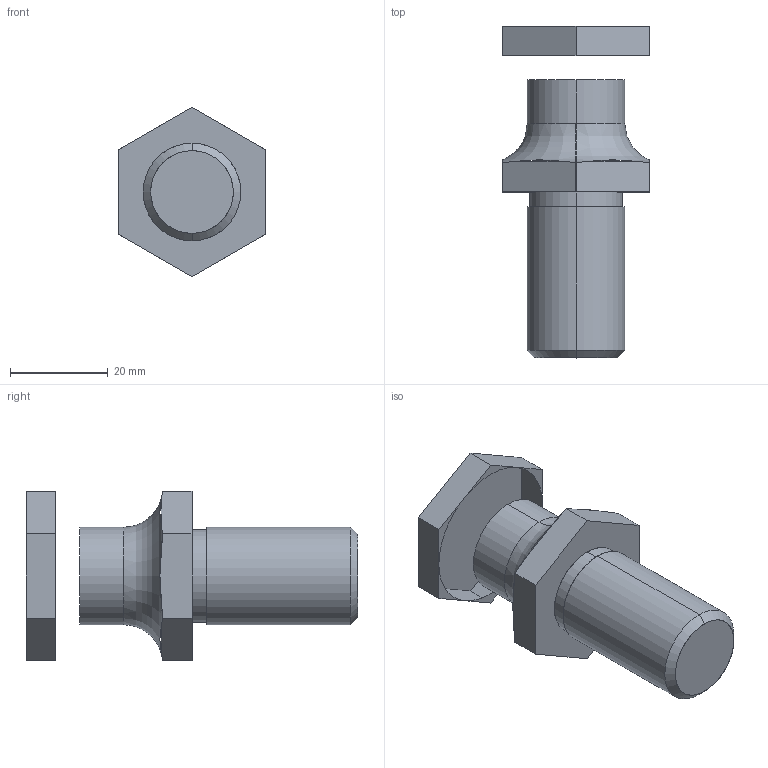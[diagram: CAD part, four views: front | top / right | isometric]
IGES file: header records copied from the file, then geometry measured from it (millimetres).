
Start section: START RECORD GO HERE.
Global section: file name: 395P-02-020-020.igs; native system: DASSAULT SYSTEMES CATIA V5 R20 - www.3ds.com; preprocessor: CATIA Version 5 Release 20 ; author: Utente; organization: NB04-ASUS; date: 20200409.204622; units: millimetre
Bounding box: 30 x 68 x 34.64 mm (x, y, z)
Surface area: 6378.1 mm2 (no closed solid volume)
Topology: 0 solids, 0 shells, 32 faces, 149 edges, 149 vertices
Faces by surface type: extrusion 22, revolution 10
